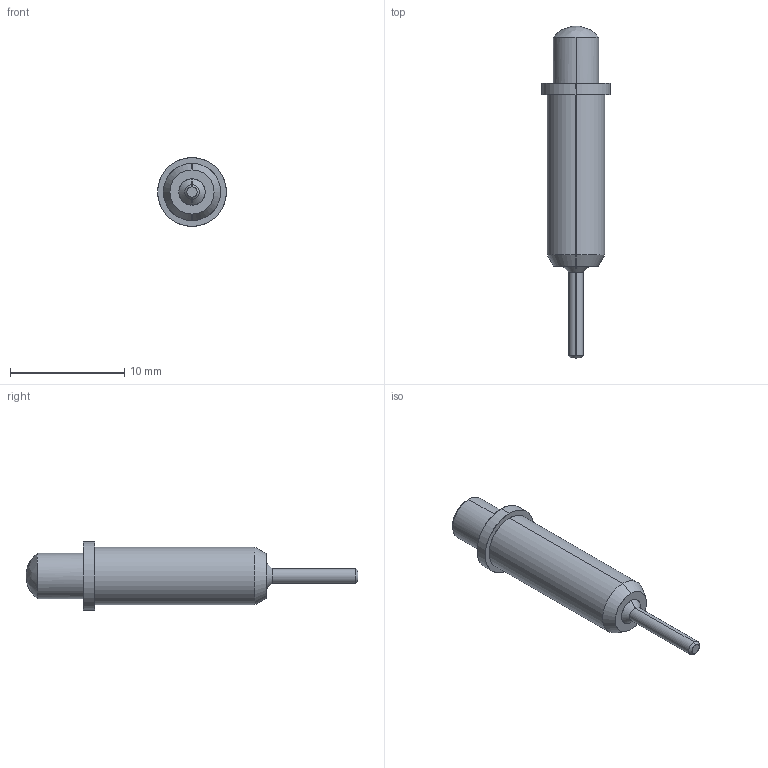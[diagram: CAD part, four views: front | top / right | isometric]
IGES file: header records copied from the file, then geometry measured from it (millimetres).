
Start section: SolidWorks IGES file using analytic representation for surfaces
Global section: file name: F:\OneDrive\Desktop\Coda\28.6\Front Fitment Completed\PC4-T series RTP\PC4JT.IGS; native system: SolidWorks 2021; preprocessor: SolidWorks 2021; author: Georg; date: 210707.162139; units: millimetre
Bounding box: 6 x 29 x 6 mm (x, y, z)
Surface area: 402.8 mm2 (no closed solid volume)
Topology: 0 solids, 0 shells, 20 faces, 328 edges, 328 vertices
Faces by surface type: revolution 14, bspline 6
